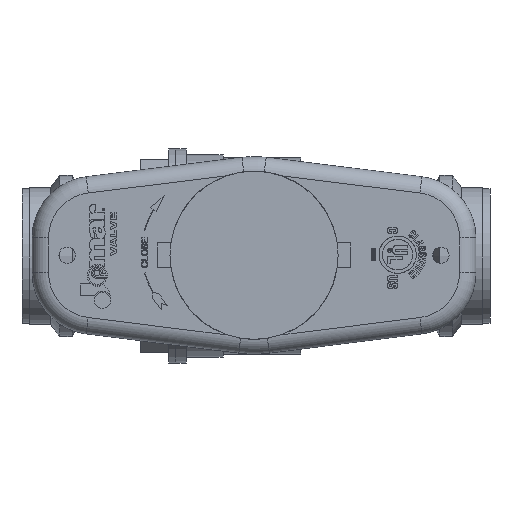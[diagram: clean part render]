
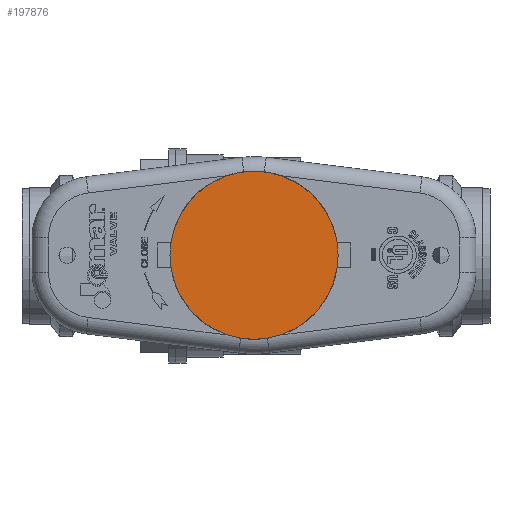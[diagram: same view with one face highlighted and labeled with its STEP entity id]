
A CAD part, top view. The second image highlights one B-rep face of the part: STEP entity #197876.
In plain terms, the highlighted planar face has unit normal (0, 0, 1).
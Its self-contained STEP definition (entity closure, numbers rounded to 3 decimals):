
#197668 = CYLINDRICAL_SURFACE('',#197669,0.774);
#197669 = AXIS2_PLACEMENT_3D('',#197670,#197671,#197672);
#197670 = CARTESIAN_POINT('',(2.137,0.,
    3.995));
#197671 = DIRECTION('',(0.,0.,-1.));
#197672 = DIRECTION('',(0.,-1.,0.));
#197743 = VERTEX_POINT('',#197744);
#197744 = CARTESIAN_POINT('',(2.137,-0.774,
    3.995));
#197764 = EDGE_CURVE('',#197743,#197743,#197765,.T.);
#197765 = SURFACE_CURVE('',#197766,(#197771,#197778),.PCURVE_S1.);
#197766 = CIRCLE('',#197767,0.774);
#197767 = AXIS2_PLACEMENT_3D('',#197768,#197769,#197770);
#197768 = CARTESIAN_POINT('',(2.137,0.,
    3.995));
#197769 = DIRECTION('',(0.,0.,1.));
#197770 = DIRECTION('',(0.,-1.,0.));
#197771 = PCURVE('',#197668,#197772);
#197772 = DEFINITIONAL_REPRESENTATION('',(#197773),#197777);
#197773 = LINE('',#197774,#197775);
#197774 = CARTESIAN_POINT('',(6.283,0.));
#197775 = VECTOR('',#197776,1.);
#197776 = DIRECTION('',(-1.,0.));
#197777 = ( GEOMETRIC_REPRESENTATION_CONTEXT(2) 
PARAMETRIC_REPRESENTATION_CONTEXT() REPRESENTATION_CONTEXT('2D SPACE',''
  ) );
#197778 = PCURVE('',#197779,#197784);
#197779 = PLANE('',#197780);
#197780 = AXIS2_PLACEMENT_3D('',#197781,#197782,#197783);
#197781 = CARTESIAN_POINT('',(2.137,0.,
    3.995));
#197782 = DIRECTION('',(0.,0.,1.));
#197783 = DIRECTION('',(0.,-1.,0.));
#197784 = DEFINITIONAL_REPRESENTATION('',(#197785),#197789);
#197785 = CIRCLE('',#197786,0.774);
#197786 = AXIS2_PLACEMENT_2D('',#197787,#197788);
#197787 = CARTESIAN_POINT('',(0.,0.));
#197788 = DIRECTION('',(1.,0.));
#197789 = ( GEOMETRIC_REPRESENTATION_CONTEXT(2) 
PARAMETRIC_REPRESENTATION_CONTEXT() REPRESENTATION_CONTEXT('2D SPACE',''
  ) );
#197876 = ADVANCED_FACE('',(#197877),#197779,.T.);
#197877 = FACE_BOUND('',#197878,.T.);
#197878 = EDGE_LOOP('',(#197879));
#197879 = ORIENTED_EDGE('',*,*,#197764,.T.);
